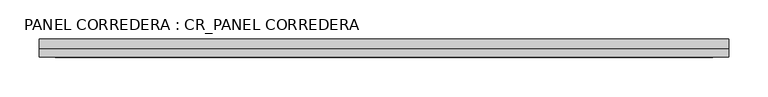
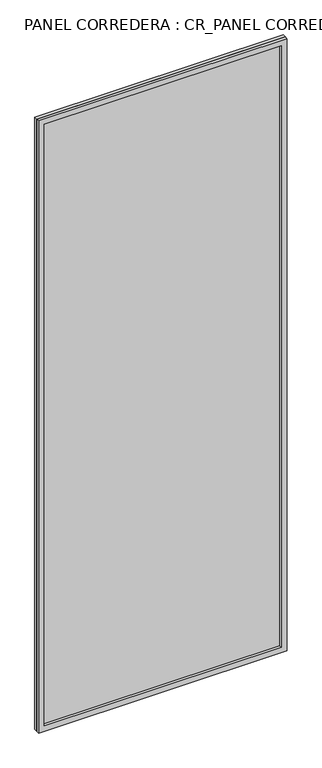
"""IFC4 building model written with IfcOpenShell, lengths in millimetres: plate geometry, PANEL CORREDERA : CR_PANEL CORREDERA."""

from ifc_helpers import new_model, si_unit, frame, origin, origin_with_axes, place, context, project, spatial, polyline, outline, extrude, source, transform, mapped, element, save


def panel_corredera_cr_panel_corredera_99e605cf(model_context):
    return source(origin(), model_context, "Body", "SweptSolid", [
        extrude(outline(polyline([(2270.0, -361.3333333), (0.0, -361.3333333), (0.0, 511.3333333), (2270.0, 511.3333333), (2270.0, -361.3333333)]), holes=[polyline([(2250.0, -341.3333333), (2250.0, 491.3333333), (20.0, 491.3333333), (20.0, -341.3333333), (2250.0, -341.3333333)])]), frame((0.0, 20.0, 0.0), z_axis=(0.0, 1.0, 0.0), x_axis=(0.0, 0.0, 1.0)), (0.0, 0.0, 1.0), 10.0),
        extrude(outline(polyline([(511.3333333, 30.0), (-361.3333333, 30.0), (-361.3333333, 42.5), (511.3333333, 42.5), (511.3333333, 30.0)])), origin_with_axes(), (0.0, 0.0, 1.0), 2270.0),
    ])


if __name__ == "__main__":
    model = new_model("IFC4")
    model_context = context("Model", 3, world=origin())
    ifc_project = project(units=[si_unit("LENGTHUNIT", "METRE", prefix="MILLI")], contexts=[model_context])
    site = spatial("IfcSite", under=ifc_project)
    building = spatial("IfcBuilding", under=site)
    placement = place(None, origin())
    panel_corredera_cr_panel_corredera_shape = panel_corredera_cr_panel_corredera_99e605cf(model_context)
    element("IfcPlate", 1, ObjectType="PANEL CORREDERA : CR_PANEL CORREDERA", at=placement, inside=building, context=model_context, shape_type="MappedRepresentation", body=[
        mapped(panel_corredera_cr_panel_corredera_shape, transform((0.0, 0.0, 0.0), x_axis=(1.0, 0.0, 0.0), y_axis=(0.0, 1.0, 0.0), z_axis=(0.0, 0.0, 1.0))),
    ])
    save(model, "model.ifc")
